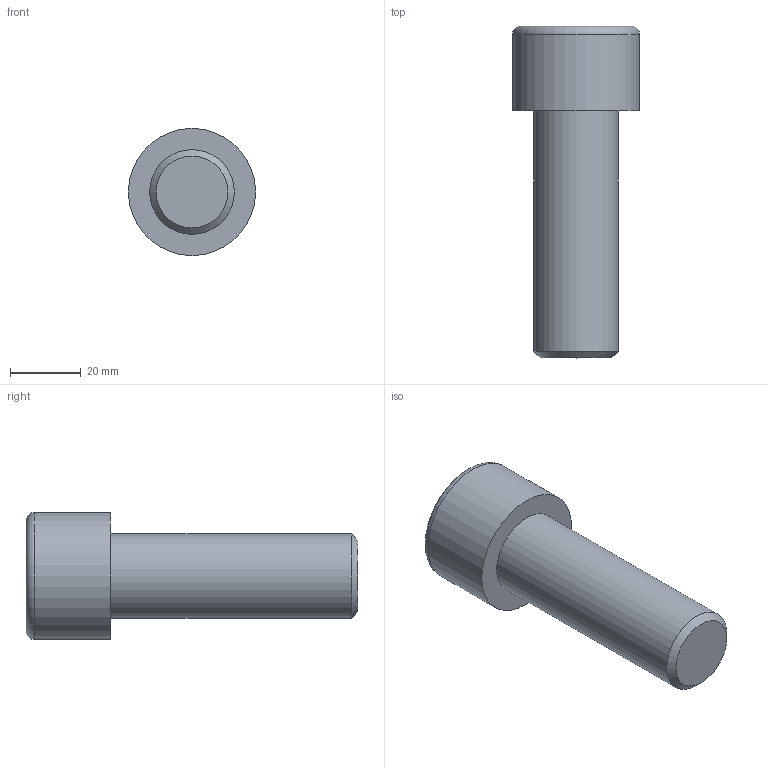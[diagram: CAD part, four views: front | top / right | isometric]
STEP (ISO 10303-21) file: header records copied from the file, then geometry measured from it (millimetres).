
FILE_DESCRIPTION(/* description */ (''),/* implementation_level */ '2;1');
FILE_NAME(/* name */ 'C:\Users\D\Documents\Inventor\各種小物\JIS\JIS B 1176 六角穴付きボルト\M24x70.stp',/* time_stamp */ '2022-05-09T18:59:55+09:00',/* author */ ('D'),/* organization */ (''),/* preprocessor_version */ 'ST-DEVELOPER v18',/* originating_system */ 'Autodesk Inventor 2020',/* authorisation */ '');
FILE_SCHEMA (('AUTOMOTIVE_DESIGN { 1 0 10303 214 3 1 1 }'));
Length unit declared in the file: millimetre
Products named in the file (1): M1.6x2.5
Bounding box: 36 x 94 x 36 mm (x, y, z)
Volume: 51311.7 mm3; surface area: 10698.1 mm2
Topology: 1 solids, 1 shells, 14 faces, 33 edges, 22 vertices
Faces by surface type: plane 9, cone 2, cylinder 2, torus 1
Full cylindrical faces by diameter (mm): 24 x1, 36 x1
Entity records: 435 total; most frequent: CARTESIAN_POINT 83, ORIENTED_EDGE 64, DIRECTION 64, EDGE_CURVE 32, AXIS2_PLACEMENT_3D 24, VERTEX_POINT 22, EDGE_LOOP 16, LINE 16
